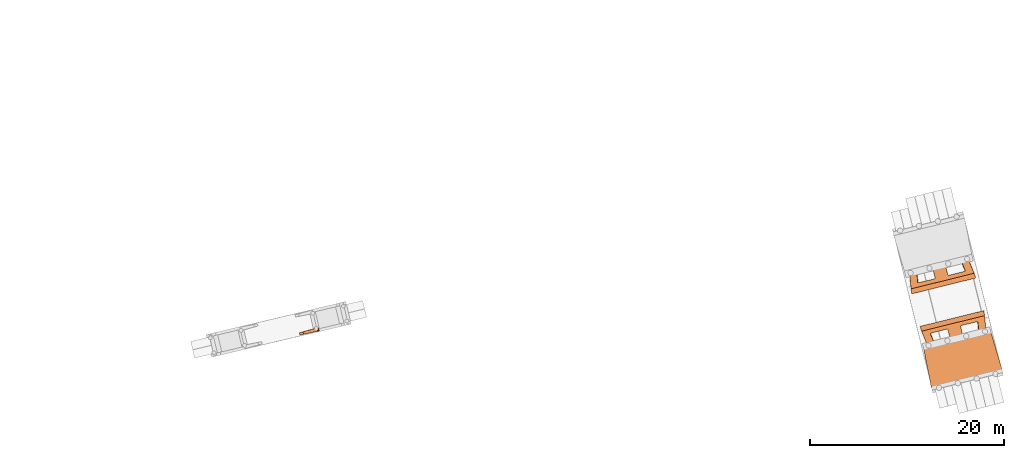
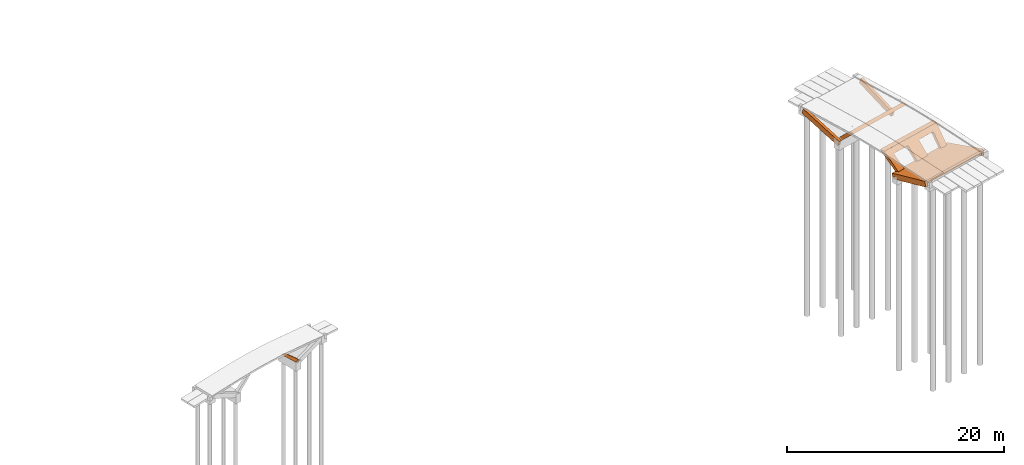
# One storey, part 11 of 15: 5 proxies.
"""IFC2X3 building model written with IfcOpenShell, lengths in millimetres."""

from ifc_helpers import new_model, entity, si_unit, converted_unit, derived_unit, direction, frame, origin, place, context, subcontext, project, spatial, faceted_brep, source, transform, mapped, material, type_object, type_shapes, element, save


model = new_model("IFC2X3")

# Units and contexts
model_context = context("Model", 3, precision=0.01, world=origin(), true_north=direction((6.12303176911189e-17, 1.0)))
body_context = subcontext(model_context, "Body", "Model", "MODEL_VIEW")
ifc_project = project(units=[si_unit("LENGTHUNIT", "METRE", prefix="MILLI"), si_unit("AREAUNIT", "SQUARE_METRE"), si_unit("VOLUMEUNIT", "CUBIC_METRE"), converted_unit("PLANEANGLEUNIT", "DEGREE", entity("IfcRatioMeasure", 0.0174532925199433), si_unit("PLANEANGLEUNIT", "RADIAN"), dimensions=[0, 0, 0, 0, 0, 0, 0]), si_unit("MASSUNIT", "GRAM", prefix="KILO"), derived_unit("MASSDENSITYUNIT", [(si_unit("MASSUNIT", "GRAM", prefix="KILO"), 1), (si_unit("LENGTHUNIT", "METRE"), -3)]), si_unit("TIMEUNIT", "SECOND"), si_unit("FREQUENCYUNIT", "HERTZ"), si_unit("THERMODYNAMICTEMPERATUREUNIT", "DEGREE_CELSIUS"), derived_unit("THERMALTRANSMITTANCEUNIT", [(si_unit("MASSUNIT", "GRAM", prefix="KILO"), 1), (si_unit("THERMODYNAMICTEMPERATUREUNIT", "KELVIN"), -1), (si_unit("TIMEUNIT", "SECOND"), -3)]), derived_unit("VOLUMETRICFLOWRATEUNIT", [(si_unit("LENGTHUNIT", "METRE"), 3), (si_unit("TIMEUNIT", "SECOND"), -1)]), si_unit("ELECTRICCURRENTUNIT", "AMPERE"), si_unit("ELECTRICVOLTAGEUNIT", "VOLT"), si_unit("POWERUNIT", "WATT"), si_unit("FORCEUNIT", "NEWTON", prefix="KILO"), si_unit("ILLUMINANCEUNIT", "LUX"), si_unit("LUMINOUSFLUXUNIT", "LUMEN"), si_unit("LUMINOUSINTENSITYUNIT", "CANDELA"), derived_unit("USERDEFINED", [(si_unit("MASSUNIT", "GRAM", prefix="KILO"), -1), (si_unit("LENGTHUNIT", "METRE"), -2), (si_unit("TIMEUNIT", "SECOND"), 3), (si_unit("LUMINOUSFLUXUNIT", "LUMEN"), 1)]), derived_unit("LINEARVELOCITYUNIT", [(si_unit("LENGTHUNIT", "METRE"), 1), (si_unit("TIMEUNIT", "SECOND"), -1)]), si_unit("PRESSUREUNIT", "PASCAL"), derived_unit("USERDEFINED", [(si_unit("LENGTHUNIT", "METRE"), -2), (si_unit("MASSUNIT", "GRAM", prefix="KILO"), 1), (si_unit("TIMEUNIT", "SECOND"), -2)])], contexts=[model_context])

# Site, building, storey
site_placement = place(None, origin())
site = spatial("IfcSite", under=ifc_project, at=site_placement, Name="Bruggen Achterburggracht Machinesloot", CompositionType="ELEMENT")
building_placement = place(site_placement, origin())
building = spatial("IfcBuilding", under=site, at=building_placement, Name="Bruggen Achterburggracht Machinesloot", CompositionType="ELEMENT")
storey_placement = place(building_placement, origin())
storey = spatial("IfcBuildingStorey", under=building, at=storey_placement, Name="00 begane grond", CompositionType="ELEMENT", Elevation=2.70716782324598e-13)

# Proxies
ifc_material = material(Name="00_PBT_MAT_beton t.p.g.")
building_element_proxy_type_1 = type_object("IfcBuildingElementProxyType", Name="kolom brug 3 .2", PredefinedType="NOTDEFINED", material=ifc_material)
shared_shape_1 = source(origin(), body_context, "Body", "Brep", [
    faceted_brep([(1740.78761387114, 718.971621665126, 0.0), (1986.65982175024, 777.453149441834, 275.808078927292), (2073.22343252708, 413.51624640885, 275.808078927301), (1827.351224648, 355.034718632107, 0.0), (1459.6796970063, 641.205956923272, 281.473110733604), (1791.28870414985, 726.876125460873, 281.473110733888), (1791.53433831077, 725.843430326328, 341.473110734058), (1913.77715492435, 757.424486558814, 341.473110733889), (1999.12815830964, 398.585713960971, 341.473110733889), (1875.75877423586, 371.747058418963, 341.473110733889), (1876.00440843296, 370.714363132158, 281.473110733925), (1541.33430296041, 297.907841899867, 281.473110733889)], [[[0, 1, 2, 3]], [[1, 0, 4, 5, 6, 7]], [[2, 1, 7, 8]], [[3, 2, 8, 9, 10, 11]], [[0, 3, 11, 4]], [[6, 5, 10, 9]], [[10, 5, 4, 11]], [[7, 6, 9, 8]]]),
    faceted_brep([(438.789801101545, 84.1704868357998, 1724.28286395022), (378.97453997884, 335.650071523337, 1724.28286395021), (190.302757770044, 286.743488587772, 1733.24916617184), (248.303406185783, 42.8930279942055, 1733.24916617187), (1.59527223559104, 237.841634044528, 1741.45176708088), (57.7872602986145, 1.59527223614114, 1741.45176708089), (1885.67786398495, 375.724967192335, 442.015517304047), (1538.98725556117, 297.439060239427, 283.782871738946), (1457.3729327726, 640.567813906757, 283.782871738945), (1802.18353320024, 726.757784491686, 442.01551730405)], [[[0, 1, 2, 3]], [[2, 4, 5, 3]], [[6, 7, 8, 9]], [[8, 4, 2, 1, 9]], [[6, 0, 3, 5, 7]], [[7, 5, 4, 8]], [[9, 1, 0, 6]]]),
])
type_shapes(building_element_proxy_type_1, [shared_shape_1])
proxy_1_placement = place(storey_placement, frame((-27146.6746757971, -46372.1510430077, -1631.47311073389)))
element("IfcBuildingElementProxy", 1, at=proxy_1_placement, inside=storey, type_object=building_element_proxy_type_1, material=ifc_material, Name="kolom brug 3 .2:kolom brug 3 .2", ObjectType="kolom brug 3 .2:kolom brug 3 .2", context=body_context, shape_type="MappedRepresentation", body=[
    mapped(shared_shape_1, transform((0.0, 0.0, 0.0), scale=1.0)),
])
building_element_proxy_type_2 = type_object("IfcBuildingElementProxyType", Name="Brug 4 kolom/wand", PredefinedType="NOTDEFINED", material=ifc_material)
shared_shape_2 = source(origin(), body_context, "Body", "Brep", [
    faceted_brep([(1561.46989436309, 181.075287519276, 22.9792169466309), (829.398965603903, 0.0, 22.9792169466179), (824.151288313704, 21.2158823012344, 0.347447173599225), (1556.22221707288, 202.291169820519, 0.347447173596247), (4484.73797179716, 904.135836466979, 22.9792169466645), (3174.26872392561, 579.995665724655, 22.9792169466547), (3169.0210466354, 601.211548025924, 0.34744717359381), (4479.49029450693, 925.351718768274, 0.347447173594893), (6829.6077301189, 1484.13150219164, 22.9792169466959), (6097.5368013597, 1303.05621467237, 22.9792169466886), (6092.28912406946, 1324.2720969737, 0.347447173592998), (6824.36005282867, 1505.34738449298, 0.347447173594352), (6571.67597186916, 3752.79639246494, 1709.06032610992), (0.0, 2127.31439428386, 1709.06032610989), (0.0786782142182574, 2126.99630541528, 1709.3996433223), (6571.75465008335, 3752.47830359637, 1709.3996433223), (6819.10103094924, 1591.69648292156, 126.25093457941), (6658.03401662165, 3240.6606354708, 1709.3996433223), (162.343273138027, 1633.97332853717, 1709.3996433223), (788.550321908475, 100.06000257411, 126.250934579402), (1520.62125066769, 281.135290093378, 126.250934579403), (1083.36745530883, 1352.20184043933, 1231.69646233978), (1082.20483827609, 1371.09322525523, 1249.67554395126), (1087.73692201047, 1390.33350780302, 1266.42938086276), (1099.58670414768, 1408.61149462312, 1280.81622677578), (1116.94664161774, 1424.68157111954, 1291.85564191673), (1138.63368337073, 1437.44858813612, 1298.79530838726), (1163.16989335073, 1446.04249456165, 1301.16229938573), (2759.38435876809, 1840.86078595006, 1301.1622993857), (2785.09763481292, 1844.69592126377, 1298.79530838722), (2810.23565965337, 1843.51092733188, 1291.85564191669), (2833.08531843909, 1837.38655953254, 1280.81622677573), (2852.08944468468, 1826.74018341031, 1266.42938086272), (2865.95293859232, 1812.29733190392, 1249.67554395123), (2873.73102596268, 1795.04226147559, 1231.69646233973), (3148.59105249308, 683.808157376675, 126.250934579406), (4459.06030036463, 1007.94832811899, 126.250934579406), (4184.20027383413, 2119.1824322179, 1231.69646233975), (4183.03765680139, 2138.0738170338, 1249.67554395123), (4188.56974053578, 2157.31409958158, 1266.42938086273), (4200.41952267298, 2175.59208640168, 1280.81622677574), (4217.77946014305, 2191.66216289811, 1291.8556419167), (4239.46650189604, 2204.42917991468, 1298.79530838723), (4264.00271187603, 2213.02308634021, 1301.1622993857), (5860.21717729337, 2607.8413777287, 1301.16229938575), (5885.9304533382, 2611.67651304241, 1298.79530838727), (5911.06847817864, 2610.49151911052, 1291.85564191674), (5933.91813696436, 2604.36715131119, 1280.81622677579), (5952.92226320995, 2593.72077518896, 1266.42938086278), (5966.7857571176, 2579.27792368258, 1249.67554395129), (5974.56384448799, 2562.02285325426, 1231.6964623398), (6087.03010219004, 1410.6211954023, 126.25093457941), (3055.53941929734, 1060.00745253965, 0.031661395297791), (2813.68487217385, 2037.80340340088, 972.734134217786), (2805.90678480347, 2055.0584738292, 990.713215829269), (2792.04329089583, 2069.50132533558, 1007.46705274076), (2773.03916465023, 2080.14770145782, 1021.85389865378), (2750.18950586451, 2086.27206925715, 1032.89331379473), (2725.05148102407, 2087.45706318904, 1039.83298026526), (2699.33820497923, 2083.62192787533, 1042.19997126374), (1103.12373956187, 1688.80363648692, 1042.19997126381), (1078.58752958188, 1680.20973006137, 1039.83298026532), (1056.90048782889, 1667.44271304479, 1032.8933137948), (1039.54055035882, 1651.37263654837, 1021.85389865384), (1027.69076822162, 1633.09464972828, 1007.46705274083), (1022.15868448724, 1613.8543671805, 990.713215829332), (1023.32130152, 1594.9629823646, 972.734134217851), (1408.0778745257, 652.489984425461, 0.00974069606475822), (676.010798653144, 471.405259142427, 0.0), (6745.54481615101, 1972.77027934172, 0.080759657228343), (6013.4748783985, 1791.68484614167, 0.0710189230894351), (5914.51769069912, 2804.78399517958, 972.734134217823), (5906.73960332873, 2822.03906560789, 990.7132158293), (5892.8761094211, 2836.48191711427, 1007.46705274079), (5873.8719831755, 2847.12829323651, 1021.8538986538), (5851.02232438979, 2853.25266103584, 1032.89331379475), (5825.88429954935, 2854.43765496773, 1039.83298026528), (5800.17102350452, 2850.602519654, 1042.19997126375), (4203.95655808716, 2455.78422826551, 1042.19997126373), (4179.42034810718, 2447.19032183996, 1039.83298026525), (4157.73330635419, 2434.42330482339, 1032.89331379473), (4140.37336888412, 2418.35322832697, 1021.85389865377), (4128.52358674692, 2400.07524150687, 1007.46705274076), (4122.99150301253, 2380.83495895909, 990.713215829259), (4124.15412004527, 2361.94357414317, 972.734134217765), (4366.00433167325, 1384.16515129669, 0.0490981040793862), (6745.5637211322, 1972.77495569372, 0.347447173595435), (6013.4944738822, 1791.68969329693, 0.347447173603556), (4366.00433167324, 1384.16515129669, 0.347447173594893), (675.986168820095, 471.399166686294, 0.347447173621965), (3055.53941929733, 1060.00745253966, 0.347447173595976), (1408.05393519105, 652.484062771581, 0.347447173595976)], [[[0, 1, 2, 3]], [[4, 5, 6, 7]], [[8, 9, 10, 11]], [[12, 13, 14, 15]], [[8, 16, 17, 18, 19, 1, 0, 20, 21, 22, 23, 24, 25, 26, 27, 28, 29, 30, 31, 32, 33, 34, 35, 5, 4, 36, 37, 38, 39, 40, 41, 42, 43, 44, 45, 46, 47, 48, 49, 50, 51, 9]], [[52, 53, 54, 55, 56, 57, 58, 59, 60, 61, 62, 63, 64, 65, 66, 67, 68, 13, 12, 69, 70, 71, 72, 73, 74, 75, 76, 77, 78, 79, 80, 81, 82, 83, 84, 85]], [[11, 86, 69, 12, 15, 17, 16, 8]], [[10, 9, 51, 50, 71, 70, 87]], [[78, 77, 44, 43]], [[59, 28, 27, 60]], [[88, 85, 84, 37, 36, 4, 7]], [[79, 78, 43, 42]], [[80, 79, 42, 41]], [[41, 40, 81, 80]], [[83, 82, 39, 38]], [[84, 83, 38, 37]], [[40, 39, 82, 81]], [[17, 15, 14, 18]], [[74, 73, 48, 47]], [[49, 72, 71, 50]], [[73, 72, 49, 48]], [[76, 75, 46, 45]], [[77, 76, 45, 44]], [[46, 75, 74, 47]], [[19, 18, 14, 13, 68, 89, 2, 1]], [[6, 5, 35, 34, 53, 52, 90]], [[54, 53, 34, 33]], [[55, 54, 33, 32]], [[32, 31, 56, 55]], [[58, 57, 30, 29]], [[59, 58, 29, 28]], [[31, 30, 57, 56]], [[61, 60, 27, 26]], [[62, 61, 26, 25]], [[25, 24, 63, 62]], [[65, 64, 23, 22]], [[66, 65, 22, 21]], [[63, 24, 23, 64]], [[91, 67, 66, 21, 20, 0, 3]], [[87, 86, 11, 10]], [[90, 88, 7, 6]], [[2, 89, 91, 3]], [[87, 70, 69, 86]], [[90, 52, 85, 88]], [[68, 67, 91, 89]]]),
])
type_shapes(building_element_proxy_type_2, [shared_shape_2])
proxy_2_placement = place(storey_placement, frame((36825.8318275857, -47613.4286301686, -1350.34744717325)))
element("IfcBuildingElementProxy", 2, at=proxy_2_placement, inside=storey, type_object=building_element_proxy_type_2, material=ifc_material, Name="Brug 4 kolom/wand:Brug 4 kolom/wand", ObjectType="Brug 4 kolom/wand:Brug 4 kolom/wand", context=body_context, shape_type="MappedRepresentation", body=[
    mapped(shared_shape_2, transform((0.0, 0.0, 0.0), scale=1.0)),
])
building_element_proxy_type_3 = type_object("IfcBuildingElementProxyType", Name="brug 4 wand", PredefinedType="NOTDEFINED", material=ifc_material)
shared_shape_3 = source(origin(), body_context, "Body", "Brep", [
    faceted_brep([(1360.28781312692, 11461.2882571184, 570.660864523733), (1651.83600755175, 11533.3975864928, 570.659559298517), (336.066960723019, 15910.5918392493, 2053.94133330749), (44.5187662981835, 15838.4825098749, 2053.94263853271), (0.0, 16018.4678355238, 1483.31124364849), (1315.76904682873, 11641.2735827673, 0.0294696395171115), (291.548194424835, 16090.5771648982, 1483.30993842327), (1607.31724125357, 11713.3829121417, 0.0281644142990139)], [[[0, 1, 2, 3]], [[0, 3, 4, 5]], [[3, 2, 6, 4]], [[2, 1, 7, 6]], [[1, 0, 5, 7]], [[5, 4, 6, 7]]]),
    faceted_brep([(7331.17191664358, 17714.2361572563, 1446.22720686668), (8185.76691863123, 13340.4510702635, 0.0), (7894.21915590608, 13268.3418476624, 0.00130522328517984), (7039.62415391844, 17642.1269346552, 1446.22851208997), (7375.69068294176, 17534.2508316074, 2016.8586017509), (8230.28568492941, 13160.4657446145, 570.631394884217), (7938.73792220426, 13088.3565220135, 570.632700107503), (7084.14292021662, 17462.1416090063, 2016.85990697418)], [[[0, 1, 2, 3]], [[4, 5, 1, 0]], [[5, 6, 2, 1]], [[6, 7, 3, 2]], [[7, 4, 0, 3]], [[4, 7, 6, 5]]]),
    faceted_brep([(9941.65098783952, 6372.66218167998, 570.66034874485), (9965.39443450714, 6276.66958494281, 266.322263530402), (9934.84324514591, 6269.11285077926, 266.32226353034), (9955.59288236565, 6185.20556568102, 0.0), (9664.04704872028, 6113.08854398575, 0.001305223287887), (9643.29625497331, 6196.99968114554, 266.322263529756), (3356.40997793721, 4641.95945831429, 266.322263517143), (3377.18483112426, 4557.96911687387, 0.0281644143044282), (3085.63856578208, 4485.85198839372, 0.0294696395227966), (3064.862941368, 4569.84627720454, 266.322263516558), (3034.30961898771, 4562.28901544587, 266.322263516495), (3010.56617232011, 4658.28161218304, 570.660348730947), (3441.32429800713, 4764.82818901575, 570.660348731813), (3441.40008809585, 4764.70009386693, 570.221637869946), (4173.47101685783, 4945.77538137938, 570.221637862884), (4173.39522676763, 4945.90347653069, 570.66034873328), (5820.88678185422, 5353.40498396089, 570.660348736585), (5820.92100862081, 5353.26660825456, 570.221637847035), (7131.39025649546, 5677.40677898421, 570.221637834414), (7131.35602972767, 5677.54515469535, 570.660348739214), (8778.84758481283, 6085.0466621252, 570.660348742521), (8778.84024825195, 6084.89800585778, 570.221637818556), (9510.91117701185, 6265.97329336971, 570.221637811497), (9510.9185135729, 6266.12194964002, 570.660348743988), (11236.2638699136, 1888.37020126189, 1749.60383653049), (11212.520423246, 1984.36279799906, 2053.94192174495), (3917.59496777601, 179.987467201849, 2053.94192173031), (3962.11426378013, 0.0, 1483.3112436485), (4253.66052912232, 72.1171284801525, 1483.30993842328), (4232.88555719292, 156.108077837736, 1749.60383651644), (10094.1239551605, 5756.22783369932, 776.988017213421), (9584.44839068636, 5885.09402574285, 696.57857725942), (8852.37746192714, 5704.01873822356, 696.578577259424), (7224.40766010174, 5301.34587094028, 696.578577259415), (5913.93841223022, 4977.20570019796, 696.578577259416), (4285.96861040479, 4574.53283291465, 696.578577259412), (3553.89768164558, 4393.4575453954, 696.578577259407), (3163.03913965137, 4041.84726416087, 776.988017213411), (11185.1164505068, 2095.1545689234, 2016.85864133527), (11193.9583507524, 2097.34170877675, 2016.85860175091), (10117.8674018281, 5660.23523696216, 472.649931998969), (9934.84324642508, 6269.11285109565, 266.322263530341), (11238.4771170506, 1917.35638312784, 1446.22720686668), (9955.6142788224, 6185.11906175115, 0.0289538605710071), (11208.8598971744, 1999.16197218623, 1712.52055612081), (3186.78258631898, 3945.8546674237, 472.649931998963), (3962.1137340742, 0.00214155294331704, 1483.31052684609), (3917.59549748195, 179.985325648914, 2053.94263853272), (10946.9312834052, 1845.23936143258, 1446.22851208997), (3377.18541450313, 4557.96675832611, 0.0289538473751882), (10926.1559637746, 1929.23209034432, 1712.52182175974), (3594.74632534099, 4293.39754282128, 593.306859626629), (4326.8172541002, 4474.47283034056, 593.306859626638), (4321.56957680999, 4495.6887126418, 570.675089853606), (4266.77110031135, 4717.23397226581, 334.344531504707), (3534.70017155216, 4536.15868474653, 334.344531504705), (3589.4986480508, 4314.61342512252, 570.675089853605), (9594.955089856, 5777.52904501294, 593.306859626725), (8862.8841610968, 5596.45375749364, 593.306859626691), (9534.90893606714, 6020.29018693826, 334.344531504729), (9589.70741256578, 5798.74492731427, 570.675089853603), (8857.63648380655, 5617.66963979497, 570.675089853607), (8802.83800730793, 5839.21489941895, 334.344531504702), (7190.03917774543, 5440.29452121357, 334.344531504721), (7244.83765424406, 5218.74926158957, 570.675089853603), (7250.08533153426, 5197.53337928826, 593.306859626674), (5939.61608366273, 4873.39320854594, 593.306859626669), (5934.36840637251, 4894.60909084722, 570.675089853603), (5879.56992987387, 5116.1543504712, 334.344531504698)], [[[0, 1, 2, 3, 4, 5, 6, 7, 8, 9, 10, 11, 12, 13, 14, 15, 16, 17, 18, 19, 20, 21, 22, 23]], [[24, 25, 26, 27, 28, 29]], [[30, 0, 23, 31, 32, 20, 19, 33, 34, 16, 15, 35, 36, 12, 11, 37, 26, 25, 38, 39]], [[1, 40, 41]], [[1, 0, 30, 40]], [[40, 30, 39, 42, 43, 41]], [[25, 24, 44, 38]], [[37, 45, 9, 8, 46, 47]], [[11, 10, 45, 37]], [[4, 3, 42, 48]], [[28, 49, 6, 29]], [[5, 4, 48, 50]], [[39, 38, 44, 50, 48, 42]], [[24, 29, 6, 5, 50, 44]], [[45, 10, 9]], [[8, 7, 28, 27]], [[51, 52, 53, 54, 55, 56]], [[57, 58, 32, 31]], [[55, 54, 14, 13]], [[59, 60, 57, 31, 23, 22]], [[58, 61, 62, 21, 20, 32]], [[63, 64, 65, 33, 19, 18]], [[51, 56, 55, 13, 12, 36]], [[66, 67, 68, 17, 16, 34]], [[54, 53, 52, 35, 15, 14]], [[66, 65, 64, 63, 68, 67]], [[58, 57, 60, 59, 62, 61]], [[65, 66, 34, 33]], [[52, 51, 36, 35]], [[68, 63, 18, 17]], [[62, 59, 22, 21]]]),
])
type_shapes(building_element_proxy_type_3, [shared_shape_3])
proxy_3_placement = place(storey_placement, frame((34060.4844678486, -51906.8261729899, -1920.67508985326)))
element("IfcBuildingElementProxy", 3, at=proxy_3_placement, inside=storey, type_object=building_element_proxy_type_3, material=ifc_material, Name="brug 4 wand:brug 4 wand", ObjectType="brug 4 wand:brug 4 wand", context=body_context, shape_type="MappedRepresentation", body=[
    mapped(shared_shape_3, transform((0.0, 0.0, 0.0), scale=1.0)),
])
building_element_proxy_type_4 = type_object("IfcBuildingElementProxyType", Name="Brug 4 kolom/wand", PredefinedType="NOTDEFINED", material=ifc_material)
shared_shape_4 = source(origin(), body_context, "Body", "Brep", [
    faceted_brep([(6023.18981137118, 3758.64476022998, 22.9793699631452), (6028.43805620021, 3737.42901831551, 0.347600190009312), (5287.61392854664, 3554.16762623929, 0.347600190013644), (5282.36568371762, 3575.38336815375, 22.9793699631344), (2356.35393222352, 2851.56111831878, 22.9793699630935), (3666.81450863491, 3175.73634497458, 22.9793699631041), (3672.06275346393, 3154.52060306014, 0.34760019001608), (2361.60217705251, 2830.34537640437, 0.347600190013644), (740.802745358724, 2451.91409222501, 22.9793699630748), (746.050990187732, 2430.69835031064, 0.347600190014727), (5.24824482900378, 2247.44224768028, 0.347600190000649), (0.0, 2268.65798959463, 22.9793699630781), (257.992446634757, 0.0, 1709.06047912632), (6852.64568392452, 1631.35255374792, 1709.06047912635), (6852.56699720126, 1631.67064051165, 1709.39979633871), (257.913759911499, 0.31808676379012, 1709.39979633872), (10.5095766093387, 2161.0932899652, 126.251087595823), (171.620701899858, 512.13344666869, 1709.39979633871), (6690.28921360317, 2124.68927651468, 1709.39979633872), (6064.04113173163, 3658.58585042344, 126.251087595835), (5323.21700407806, 3475.32445834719, 126.251087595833), (5768.74307295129, 2384.07814492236, 1252.53640657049), (5769.9061953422, 2365.18679121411, 1270.51548818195), (5764.37462630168, 2345.94636068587, 1287.26932509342), (5752.52533311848, 2327.66805688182, 1301.65617100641), (5735.16582554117, 2311.59751599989, 1312.69558614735), (5713.47912532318, 2298.82991884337, 1319.63525261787), (5688.94314524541, 2290.235356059, 1322.00224361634), (4086.91480746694, 1893.93354518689, 1322.00224361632), (4061.20163402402, 1890.09772202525, 1319.63525261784), (4036.0635774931, 1891.28204349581, 1312.69558614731), (4013.21375488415, 1897.40580004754, 1301.65617100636), (3994.20934384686, 1908.05166779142, 1287.26932509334), (3980.34546358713, 1922.49414843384, 1270.51548818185), (3972.56691463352, 1939.74901078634, 1252.53640657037), (3692.49495711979, 3071.92454025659, 126.251087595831), (2382.03438070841, 2747.74931360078, 126.251087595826), (2662.10631827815, 1615.57386475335, 1252.53632636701), (2663.26944066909, 1596.68251104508, 1270.51540797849), (2657.7378716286, 1577.44208051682, 1287.26924488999), (2645.88857844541, 1559.16377671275, 1301.656090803), (2628.52907086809, 1543.09323583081, 1312.69550594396), (2606.84237065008, 1530.32563867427, 1319.63517241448), (2582.30639057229, 1521.7310758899, 1322.00216341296), (980.278052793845, 1125.42926501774, 1322.00216341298), (954.564879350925, 1121.5934418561, 1319.6351724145), (929.426822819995, 1122.77776332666, 1312.69550594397), (906.577000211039, 1128.90151987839, 1301.65609080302), (887.57258917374, 1139.54738762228, 1287.26924488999), (873.708708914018, 1153.98986826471, 1270.51540797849), (865.930159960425, 1171.24473061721, 1252.53632636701), (751.312321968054, 2344.34939259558, 126.251087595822), (3785.56098985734, 2695.71020653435, 0.0492511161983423), (4032.61956244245, 1696.98947522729, 993.574078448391), (4040.39811139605, 1679.73461287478, 1011.55316005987), (4054.26199165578, 1665.29213223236, 1028.30699697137), (4073.26640269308, 1654.64626448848, 1042.69384288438), (4096.11622530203, 1648.52250793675, 1053.73325802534), (4121.25428183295, 1647.33818646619, 1060.67292449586), (4146.96745527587, 1651.17400962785, 1063.03991549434), (5748.99579305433, 2047.47582049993, 1063.03991549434), (5773.53177313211, 2056.07038328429, 1060.67292449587), (5795.2184733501, 2068.83798044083, 1053.73325802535), (5812.57798092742, 2084.90852132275, 1042.69384288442), (5824.42727411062, 2103.18682512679, 1028.30699697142), (5829.95884315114, 2122.42725565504, 1011.55316005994), (5828.79572076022, 2141.3186093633, 993.574078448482), (5435.79456863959, 3103.91336730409, 0.0712086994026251), (6176.62259554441, 3287.16520877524, 0.081065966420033), (84.0677512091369, 1780.10573756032, 0.0), (824.871499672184, 1963.35157349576, 0.00985694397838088), (925.98280776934, 928.485195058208, 993.573998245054), (933.761356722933, 911.230332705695, 1011.55307985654), (947.625236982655, 896.787852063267, 1028.30691676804), (966.629648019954, 886.141984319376, 1042.69376268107), (989.479470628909, 880.018227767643, 1053.73317782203), (1014.61752715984, 878.833906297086, 1060.67284429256), (1040.33070060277, 882.669729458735, 1063.03983529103), (2642.3590383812, 1278.97154033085, 1063.039835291), (2666.895018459, 1287.56610311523, 1060.67284429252), (2688.581718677, 1300.33370027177, 1053.73317782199), (2705.94122625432, 1316.40424115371, 1042.69376268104), (2717.79051943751, 1334.68254495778, 1028.30691676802), (2723.32208847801, 1353.92297548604, 1011.55307985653), (2722.15896608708, 1372.81432919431, 993.573998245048), (2475.09607748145, 2371.55250777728, 0.0318144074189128), (6176.64148965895, 3287.16988243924, 0.347600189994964), (5435.81416151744, 3103.91821381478, 0.347600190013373), (3785.56098985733, 2695.71020653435, 0.347600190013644), (84.0431105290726, 1780.09964242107, 0.347600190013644), (2475.09607748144, 2371.55250777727, 0.347600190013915), (824.84755773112, 1963.34565119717, 0.347600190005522)], [[[0, 1, 2, 3]], [[4, 5, 6, 7]], [[8, 9, 10, 11]], [[12, 13, 14, 15]], [[11, 16, 17, 18, 19, 0, 3, 20, 21, 22, 23, 24, 25, 26, 27, 28, 29, 30, 31, 32, 33, 34, 35, 5, 4, 36, 37, 38, 39, 40, 41, 42, 43, 44, 45, 46, 47, 48, 49, 50, 51, 8]], [[52, 53, 54, 55, 56, 57, 58, 59, 60, 61, 62, 63, 64, 65, 66, 67, 68, 13, 12, 69, 70, 71, 72, 73, 74, 75, 76, 77, 78, 79, 80, 81, 82, 83, 84, 85]], [[19, 18, 14, 13, 68, 86, 1, 0]], [[87, 67, 66, 21, 20, 3, 2]], [[59, 28, 27, 60]], [[6, 5, 35, 34, 53, 52, 88]], [[54, 53, 34, 33]], [[55, 54, 33, 32]], [[32, 31, 56, 55]], [[58, 57, 30, 29]], [[59, 58, 29, 28]], [[31, 30, 57, 56]], [[18, 17, 15, 14]], [[62, 61, 26, 25]], [[63, 62, 25, 24]], [[27, 26, 61, 60]], [[65, 64, 23, 22]], [[66, 65, 22, 21]], [[23, 64, 63, 24]], [[10, 89, 69, 12, 15, 17, 16, 11]], [[90, 85, 84, 37, 36, 4, 7]], [[80, 79, 42, 41]], [[81, 80, 41, 40]], [[43, 42, 79, 78]], [[83, 82, 39, 38]], [[84, 83, 38, 37]], [[39, 82, 81, 40]], [[77, 44, 43, 78]], [[73, 72, 49, 48]], [[74, 73, 48, 47]], [[50, 49, 72, 71]], [[76, 75, 46, 45]], [[77, 76, 45, 44]], [[46, 75, 74, 47]], [[9, 8, 51, 50, 71, 70, 91]], [[1, 86, 87, 2]], [[6, 88, 90, 7]], [[9, 91, 89, 10]], [[86, 68, 67, 87]], [[88, 52, 85, 90]], [[91, 70, 69, 89]]]),
])
type_shapes(building_element_proxy_type_4, [shared_shape_4])
proxy_4_placement = place(storey_placement, frame((35725.4094201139, -42129.7775643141, -1350.34760018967)))
element("IfcBuildingElementProxy", 4, at=proxy_4_placement, inside=storey, type_object=building_element_proxy_type_4, material=ifc_material, Name="Brug 4 kolom/wand1:Brug 4 kolom/wand", ObjectType="Brug 4 kolom/wand1:Brug 4 kolom/wand", context=body_context, shape_type="MappedRepresentation", body=[
    mapped(shared_shape_4, transform((0.0, 0.0, 0.0), scale=1.0)),
])
building_element_proxy_type_5 = type_object("IfcBuildingElementProxyType", Name="Brug 4 kolom/wand", PredefinedType="NOTDEFINED", material=ifc_material)
shared_shape_5 = source(origin(), body_context, "Body", "Brep", [
    faceted_brep([(732.065338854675, 2449.75481267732, 258.962328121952), (792.118986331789, 2206.99552441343, 0.0), (60.053647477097, 2025.89763891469, 0.0), (0.0, 2268.65692717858, 258.962328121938), (2344.85185350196, 2848.72497566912, 258.962328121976), (3655.31109496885, 3172.90559871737, 258.962328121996), (3715.36474244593, 2930.14631045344, 0.0), (2404.90550097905, 2605.96568740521, 0.0), (6000.1629484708, 3752.97364720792, 258.962328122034), (6060.2165959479, 3510.21435894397, 0.0), (5328.15125709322, 3329.11647344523, 0.0), (5268.09760961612, 3571.87576170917, 258.962328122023), (258.001788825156, 0.0, 1945.04343728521), (6829.62758107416, 1625.68485639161, 1945.04343728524), (6829.54889304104, 1626.00294283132, 1945.38275449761), (257.923100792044, 0.318086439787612, 1945.38275449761), (2645.42705821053, 1633.68765770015, 1467.67957351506), (2646.59025839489, 1614.79630878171, 1485.65865512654), (2641.05876858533, 1595.55585547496, 1502.41249203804), (2629.20955067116, 1577.27750287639, 1516.79933795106), (2611.85010927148, 1561.20689050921, 1527.83875309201), (2590.16346162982, 1548.43920404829, 1534.77841956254), (2565.62751694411, 1539.84454022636, 1537.14541056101), (969.425239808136, 1144.97697598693, 1537.14541056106), (943.712082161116, 1141.14104694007, 1534.77841956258), (918.574020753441, 1142.32526489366, 1527.83875309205), (895.72417292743, 1148.44892735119, 1516.7993379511), (876.719718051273, 1159.094716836, 1502.41249203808), (862.855778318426, 1173.53714038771, 1485.65865512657), (855.077158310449, 1190.79197070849, 1467.67957351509), (171.627935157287, 512.133090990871, 1945.38275449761), (6667.26907922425, 2119.02091058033, 1945.38275449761), (5746.23619957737, 2400.76396774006, 1467.67957351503), (5747.39939976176, 2381.8726188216, 1485.65865512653), (5741.86790995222, 2362.63216551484, 1502.41249203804), (5730.01869203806, 2344.35381291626, 1516.79933795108), (5712.65925063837, 2328.28320054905, 1527.83875309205), (5690.9726029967, 2315.51551408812, 1534.77841956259), (5666.43665831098, 2306.92085026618, 1537.14541056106), (4070.23438117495, 1912.05328602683, 1537.14541056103), (4044.52122352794, 1908.21735697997, 1534.77841956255), (4019.38316212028, 1909.40157493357, 1527.83875309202), (3996.53331429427, 1915.5252373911, 1516.79933795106), (3977.52885941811, 1926.17102687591, 1502.41249203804), (3963.66491968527, 1940.61345042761, 1485.65865512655), (3955.8862996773, 1957.86828074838, 1467.67957351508), (4015.93994715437, 1715.10899248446, 1208.7172453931), (4023.71856716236, 1697.85416216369, 1226.69632700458), (4037.5825068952, 1683.41173861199, 1243.45016391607), (4056.58696177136, 1672.76594912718, 1257.83700982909), (4079.43680959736, 1666.64228666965, 1268.87642497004), (4104.57487100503, 1665.45806871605, 1275.81609144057), (4130.28802865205, 1669.29399776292, 1278.18308243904), (5726.49030578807, 2064.16156200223, 1278.18308243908), (5751.0262504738, 2072.75622582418, 1275.81609144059), (5772.71289811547, 2085.52391228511, 1268.87642497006), (5790.07233951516, 2101.59452465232, 1257.83700982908), (5801.92155742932, 2119.8728772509, 1243.45016391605), (5807.45304723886, 2139.11333055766, 1226.69632700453), (5806.28984705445, 2158.00467947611, 1208.71724539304), (915.130805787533, 948.0326824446, 1208.71724539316), (922.909425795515, 930.777852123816, 1226.69632700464), (936.773365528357, 916.335428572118, 1243.45016391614), (955.777820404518, 905.689639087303, 1257.83700982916), (978.627668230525, 899.565976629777, 1268.87642497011), (1003.7657296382, 898.38175867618, 1275.81609144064), (1029.47888728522, 902.217687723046, 1278.18308243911), (2625.6811644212, 1297.08525196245, 1278.18308243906), (2650.21710910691, 1305.67991578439, 1275.81609144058), (2671.90375674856, 1318.44760224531, 1268.87642497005), (2689.26319814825, 1334.51821461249, 1257.8370098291), (2701.11241606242, 1352.79656721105, 1243.45016391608), (2706.64390587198, 1372.03702051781, 1226.69632700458), (2705.48070568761, 1390.92836943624, 1208.7172453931)], [[[0, 1, 2, 3]], [[4, 5, 6, 7]], [[8, 9, 10, 11]], [[12, 13, 14, 15]], [[4, 16, 17, 18, 19, 20, 21, 22, 23, 24, 25, 26, 27, 28, 29, 0, 3, 30, 31, 8, 11, 32, 33, 34, 35, 36, 37, 38, 39, 40, 41, 42, 43, 44, 45, 5]], [[6, 46, 47, 48, 49, 50, 51, 52, 53, 54, 55, 56, 57, 58, 59, 10, 9, 13, 12, 2, 1, 60, 61, 62, 63, 64, 65, 66, 67, 68, 69, 70, 71, 72, 73, 7]], [[9, 8, 31, 14, 13]], [[59, 32, 11, 10]], [[52, 39, 38, 53]], [[66, 23, 22, 67]], [[6, 5, 45, 46]], [[48, 47, 44, 43]], [[49, 48, 43, 42]], [[45, 44, 47, 46]], [[51, 50, 41, 40]], [[52, 51, 40, 39]], [[41, 50, 49, 42]], [[31, 30, 15, 14]], [[54, 53, 38, 37]], [[55, 54, 37, 36]], [[35, 56, 55, 36]], [[58, 57, 34, 33]], [[59, 58, 33, 32]], [[35, 34, 57, 56]], [[2, 12, 15, 30, 3]], [[7, 73, 16, 4]], [[68, 67, 22, 21]], [[69, 68, 21, 20]], [[20, 19, 70, 69]], [[72, 71, 18, 17]], [[73, 72, 17, 16]], [[19, 18, 71, 70]], [[61, 60, 29, 28]], [[62, 61, 28, 27]], [[27, 26, 63, 62]], [[65, 64, 25, 24]], [[66, 65, 24, 23]], [[26, 25, 64, 63]], [[60, 1, 0, 29]]]),
])
type_shapes(building_element_proxy_type_5, [shared_shape_5])
proxy_5_placement = place(storey_placement, frame((35736.7551268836, -42126.3763805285, -1586.33055834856)))
element("IfcBuildingElementProxy", 5, at=proxy_5_placement, inside=storey, type_object=building_element_proxy_type_5, material=ifc_material, Name="Brug 4 kolom/wand2:Brug 4 kolom/wand", ObjectType="Brug 4 kolom/wand2:Brug 4 kolom/wand", context=body_context, shape_type="MappedRepresentation", body=[
    mapped(shared_shape_5, transform((0.0, 0.0, 0.0), scale=1.0)),
])

save(model, "model.ifc")
